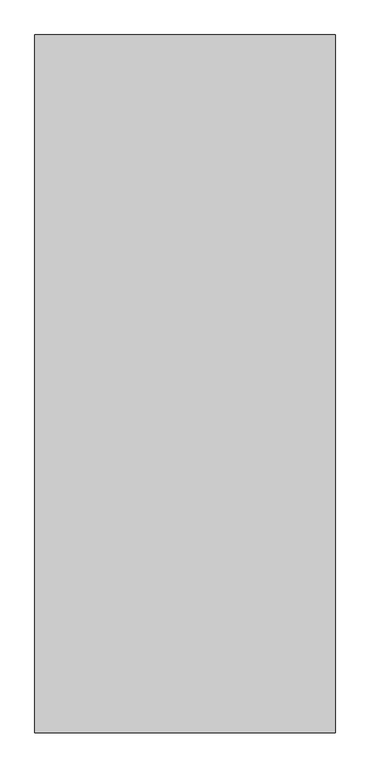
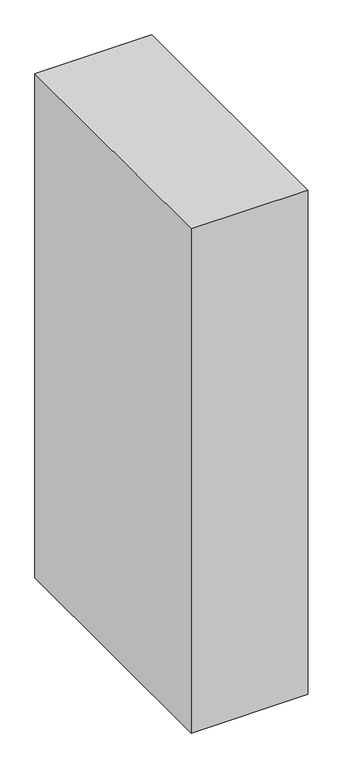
"""IFC4 building model written with IfcOpenShell, lengths in millimetres: column geometry, M_混凝土-矩形-柱 : RC柱70*162.5."""

from ifc_helpers import new_model, si_unit, frame, origin, place, context, project, spatial, polyline, outline, extrude, source, transform, mapped, element, save


def column_dbabbef8(model_context):
    return source(origin(), model_context, "Body", "SweptSolid", [
        extrude(outline(polyline([(350.0, 812.5), (350.0, -812.5), (-350.0, -812.5), (-350.0, 812.5), (350.0, 812.5)])), frame((0.0, 0.0, 8000.0), z_axis=(0.0, 0.0, 1.0), x_axis=(1.0, 0.0, 0.0)), (0.0, 0.0, 1.0), 3200.0),
    ])


if __name__ == "__main__":
    model = new_model("IFC4")
    model_context = context("Model", 3, world=origin())
    ifc_project = project(units=[si_unit("LENGTHUNIT", "METRE", prefix="MILLI")], contexts=[model_context])
    site = spatial("IfcSite", under=ifc_project)
    building = spatial("IfcBuilding", under=site)
    placement = place(None, origin())
    column_shape = column_dbabbef8(model_context)
    element("IfcColumn", 1, ObjectType="M_混凝土-矩形-柱 : RC柱70*162.5", at=placement, inside=building, context=model_context, shape_type="MappedRepresentation", body=[
        mapped(column_shape, transform((0.0, 0.0, 0.0), x_axis=(1.0, 0.0, 0.0), y_axis=(0.0, 1.0, 0.0), z_axis=(0.0, 0.0, 1.0))),
    ])
    save(model, "model.ifc")
